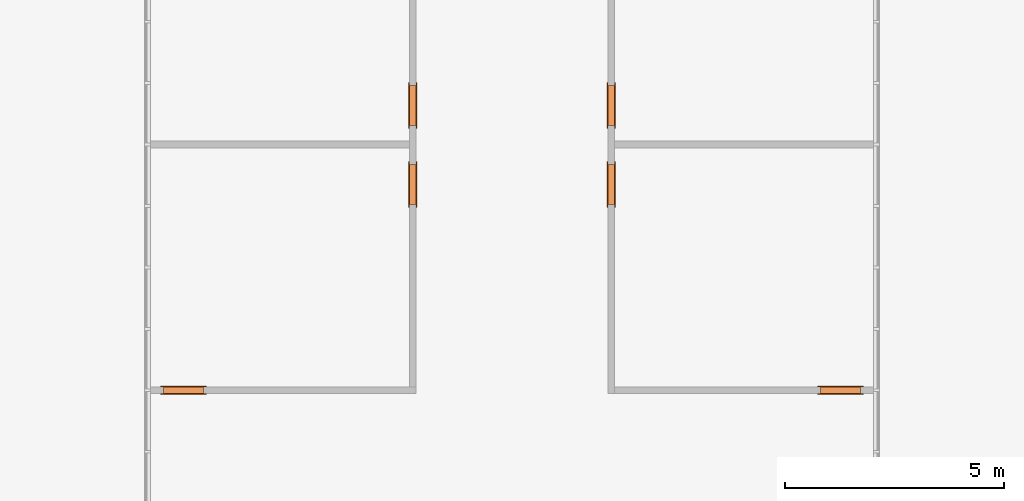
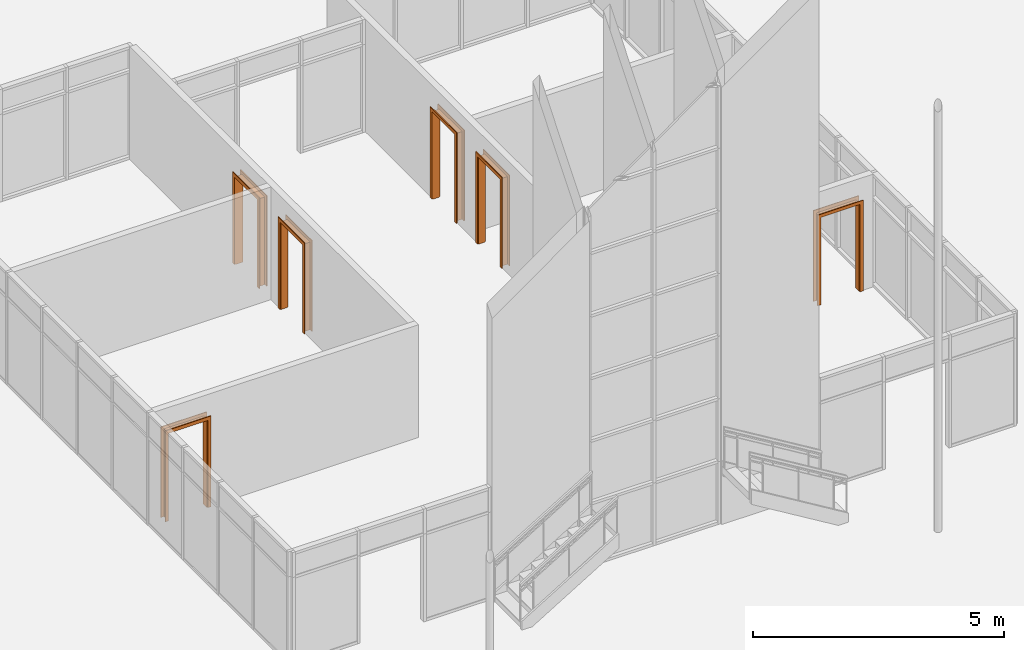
# One storey, part 12 of 12: 6 proxies.
"""IFC2X3 building model written with IfcOpenShell, lengths in feet."""

from ifc_helpers import new_model, entity, si_unit, converted_unit, derived_unit, direction, frame, origin, place, context, subcontext, project, spatial, faceted_brep, source, transform, mapped, material, type_object, type_shapes, element, save


model = new_model("IFC2X3")

# Units and contexts
model_context = context("Model", 3, precision=0.0001, world=origin(), true_north=direction((6.12303176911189e-17, 1.0)))
body_context = subcontext(model_context, "Body", "Model", "MODEL_VIEW")
ifc_project = project(units=[converted_unit("LENGTHUNIT", "FOOT", entity("IfcRatioMeasure", 0.3048), si_unit("LENGTHUNIT", "METRE"), dimensions=[1, 0, 0, 0, 0, 0, 0]), converted_unit("AREAUNIT", "SQUARE FOOT", entity("IfcRatioMeasure", 0.09290304), si_unit("AREAUNIT", "SQUARE_METRE"), dimensions=[2, 0, 0, 0, 0, 0, 0]), converted_unit("VOLUMEUNIT", "CUBIC FOOT", entity("IfcRatioMeasure", 0.028316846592), si_unit("VOLUMEUNIT", "CUBIC_METRE"), dimensions=[3, 0, 0, 0, 0, 0, 0]), converted_unit("PLANEANGLEUNIT", "DEGREE", entity("IfcRatioMeasure", 0.0174532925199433), si_unit("PLANEANGLEUNIT", "RADIAN"), dimensions=[0, 0, 0, 0, 0, 0, 0]), si_unit("MASSUNIT", "GRAM", prefix="KILO"), derived_unit("MASSDENSITYUNIT", [(si_unit("MASSUNIT", "GRAM", prefix="KILO"), 1), (si_unit("LENGTHUNIT", "METRE"), -3)]), si_unit("TIMEUNIT", "SECOND"), si_unit("FREQUENCYUNIT", "HERTZ"), si_unit("THERMODYNAMICTEMPERATUREUNIT", "DEGREE_CELSIUS"), derived_unit("THERMALTRANSMITTANCEUNIT", [(si_unit("MASSUNIT", "GRAM", prefix="KILO"), 1), (si_unit("THERMODYNAMICTEMPERATUREUNIT", "KELVIN"), -1), (si_unit("TIMEUNIT", "SECOND"), -3)]), derived_unit("VOLUMETRICFLOWRATEUNIT", [(si_unit("LENGTHUNIT", "METRE"), 3), (si_unit("TIMEUNIT", "SECOND"), -1)]), si_unit("ELECTRICCURRENTUNIT", "AMPERE"), si_unit("ELECTRICVOLTAGEUNIT", "VOLT"), si_unit("POWERUNIT", "WATT"), si_unit("FORCEUNIT", "NEWTON"), si_unit("ILLUMINANCEUNIT", "LUX"), si_unit("LUMINOUSFLUXUNIT", "LUMEN"), si_unit("LUMINOUSINTENSITYUNIT", "CANDELA"), derived_unit("USERDEFINED", [(si_unit("MASSUNIT", "GRAM", prefix="KILO"), -1), (si_unit("LENGTHUNIT", "METRE"), -2), (si_unit("TIMEUNIT", "SECOND"), 3), (si_unit("LUMINOUSFLUXUNIT", "LUMEN"), 1)]), derived_unit("LINEARVELOCITYUNIT", [(si_unit("LENGTHUNIT", "METRE"), 1), (si_unit("TIMEUNIT", "SECOND"), -1)]), si_unit("PRESSUREUNIT", "PASCAL"), derived_unit("USERDEFINED", [(si_unit("LENGTHUNIT", "METRE"), -2), (si_unit("MASSUNIT", "GRAM", prefix="KILO"), 1), (si_unit("TIMEUNIT", "SECOND"), -2)])], contexts=[model_context])

# Site, building, storey
site_placement = place(None, origin())
site = spatial("IfcSite", under=ifc_project, at=site_placement, Name="Default", CompositionType="ELEMENT")
building_placement = place(site_placement, origin())
building = spatial("IfcBuilding", under=site, at=building_placement, CompositionType="ELEMENT")
storey_placement = place(building_placement, origin())
storey = spatial("IfcBuildingStorey", under=building, at=storey_placement, Name="Level 1", CompositionType="ELEMENT", Elevation=0.0)

# Proxies
ifc_material = material(Name="Door - Frame")
building_element_proxy_type = type_object("IfcBuildingElementProxyType", Name="36\" x 84\"", PredefinedType="NOTDEFINED", material=ifc_material)
shared_shape = source(origin(), body_context, "Body", "Brep", [
    faceted_brep([(-1.50603233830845, -0.312500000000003, 0.0), (-1.50603233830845, -0.312500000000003, 6.97916666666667), (1.45230099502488, -0.312500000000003, 6.97916666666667), (1.45230099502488, -0.312500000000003, 0.0), (1.70230099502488, -0.312500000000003, 0.0), (1.70230099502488, -0.312500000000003, 7.22916666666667), (-1.75603233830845, -0.312500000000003, 7.22916666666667), (-1.75603233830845, -0.312500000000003, 0.0), (-1.50603233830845, -0.25, 0.0), (-1.75603233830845, -0.25, 0.0), (-1.75603233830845, -0.25, 7.22916666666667), (1.70230099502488, -0.25, 7.22916666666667), (1.70230099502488, -0.25, 0.0), (1.45230099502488, -0.25, 0.0), (1.45230099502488, -0.25, 6.97916666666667), (-1.50603233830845, -0.25, 6.97916666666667)], [[[0, 1, 2, 3, 4, 5, 6, 7]], [[8, 9, 10, 11, 12, 13, 14, 15]], [[1, 0, 8, 15]], [[2, 1, 15, 14]], [[3, 2, 14, 13]], [[4, 3, 13, 12]], [[5, 4, 12, 11]], [[6, 5, 11, 10]], [[7, 6, 10, 9]], [[0, 7, 9, 8]]]),
    faceted_brep([(1.70230099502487, 0.312500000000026, 0.0), (1.45230099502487, 0.312500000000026, 0.0), (1.45230099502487, 0.312500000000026, 6.97916666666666), (-1.50603233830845, 0.312500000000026, 6.97916666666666), (-1.50603233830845, 0.312500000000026, 0.0), (-1.75603233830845, 0.312500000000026, 0.0), (-1.75603233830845, 0.312500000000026, 7.25), (1.70230099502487, 0.312500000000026, 7.25), (1.70230099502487, 0.25, 0.0), (1.70230099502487, 0.25, 7.25), (-1.75603233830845, 0.25, 7.25), (-1.75603233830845, 0.25, 0.0), (-1.50603233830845, 0.25, 0.0), (-1.50603233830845, 0.25, 6.97916666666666), (1.45230099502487, 0.25, 6.97916666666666), (1.45230099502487, 0.25, 0.0)], [[[0, 1, 2, 3, 4, 5, 6, 7]], [[8, 9, 10, 11, 12, 13, 14, 15]], [[1, 0, 8, 15]], [[2, 1, 15, 14]], [[3, 2, 14, 13]], [[4, 3, 13, 12]], [[5, 4, 12, 11]], [[6, 5, 11, 10]], [[7, 6, 10, 9]], [[0, 7, 9, 8]]]),
    faceted_brep([(1.41063432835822, 0.25, 0.0), (1.47313432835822, 0.25, 0.0), (1.47313432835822, -0.25, 0.0), (1.41063432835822, -0.25, 0.0), (1.41063432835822, 0.25, 6.9375), (1.47313432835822, 0.25, 7.0), (1.47313432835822, -0.25, 7.0), (1.41063432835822, -0.25, 6.9375), (-1.46436567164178, 0.25, 6.9375), (-1.52686567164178, 0.25, 7.0), (-1.52686567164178, -0.25, 7.0), (-1.46436567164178, -0.25, 6.9375), (-1.46436567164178, 0.25, 0.0), (-1.46436567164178, -0.25, 0.0), (-1.52686567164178, -0.25, 0.0), (-1.52686567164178, 0.25, 0.0)], [[[0, 1, 2, 3]], [[1, 0, 4, 5]], [[2, 1, 5, 6]], [[3, 2, 6, 7]], [[0, 3, 7, 4]], [[5, 4, 8, 9]], [[6, 5, 9, 10]], [[7, 6, 10, 11]], [[4, 7, 11, 8]], [[12, 13, 14, 15]], [[9, 8, 12, 15]], [[10, 9, 15, 14]], [[11, 10, 14, 13]], [[8, 11, 13, 12]]]),
])
type_shapes(building_element_proxy_type, [shared_shape])
for number, where, z_axis, x_axis in (
    (1, (-41.4463748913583, 32.8773910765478, 0.0), (0.0, 0.0, 1.0), (0.0, 1.0, 0.0)),
    (2, (-41.4463748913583, 26.9468355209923, 0.0), (0.0, 0.0, 1.0), (0.0, 1.0, 0.0)),
    (3, (-26.5372839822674, 26.9468355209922, 0.0), (0.0, 0.0, 1.0), (0.0, 1.0, 0.0)),
    (4, (-26.5372839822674, 32.8236597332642, 0.0), (0.0, 0.0, 1.0), (0.0, -1.0, 0.0)),
):
    element("IfcBuildingElementProxy", number, at=place(storey_placement, frame(where, z_axis=z_axis, x_axis=x_axis)), inside=storey, type_object=building_element_proxy_type, material=ifc_material, Name="Passage Opening-Cased:36\" x 84\"", ObjectType="36\" x 84\"", context=body_context, shape_type="MappedRepresentation", body=[
        mapped(shared_shape, transform((0.0, 0.0, 0.0), scale=1.0)),
    ])
proxy_1_placement = place(storey_placement, frame((-9.33996376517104, 11.4894142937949, 0.0)))
element("IfcBuildingElementProxy", 5, at=proxy_1_placement, inside=storey, type_object=building_element_proxy_type, material=ifc_material, Name="Passage Opening-Cased:36\" x 84\"", ObjectType="36\" x 84\"", context=body_context, shape_type="MappedRepresentation", body=[
    mapped(shared_shape, transform((0.0, 0.0, 0.0), scale=1.0)),
])
proxy_2_placement = place(storey_placement, frame((-58.6436951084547, 11.489414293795, 0.0), z_axis=(0.0, 0.0, 1.0), x_axis=(-1.0, 0.0, 0.0)))
element("IfcBuildingElementProxy", 6, at=proxy_2_placement, inside=storey, type_object=building_element_proxy_type, material=ifc_material, Name="Passage Opening-Cased:36\" x 84\"", ObjectType="36\" x 84\"", context=body_context, shape_type="MappedRepresentation", body=[
    mapped(shared_shape, transform((0.0, 0.0, 0.0), scale=1.0)),
])

save(model, "model.ifc")
